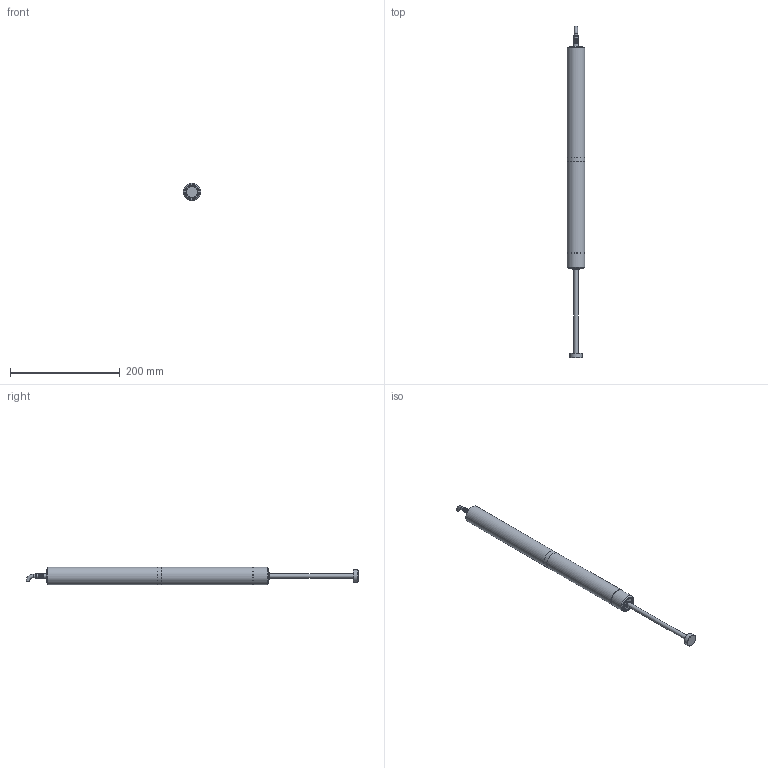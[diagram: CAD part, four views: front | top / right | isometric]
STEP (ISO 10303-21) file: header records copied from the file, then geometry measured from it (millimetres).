
FILE_DESCRIPTION( ( 'STEP AP203' ), '1' );
FILE_NAME( 'N:/Engineering/CAD_Solid/Magnescale/DK-Serie/DK 155 PR5/Kunden 3D/DK155PR5.stp', '2010-08-11T09:31:27', ( ' ' ), ( ' ' ), 'XStep 1.0', ' ', ' ' );
FILE_SCHEMA( ( 'CONFIG_CONTROL_DESIGN) ( )' ) );
Length unit declared in the file: metre
Products named in the file (5): 1; 2; 3; 4; 5
Bounding box: 32 x 606.4 x 32 mm (x, y, z)
Surface area: 49165.1 mm2 (no closed solid volume)
Topology: 0 solids, 59 shells, 59 faces, 161 edges, 129 vertices
Faces by surface type: plane 27, cone 18, cylinder 13, torus 1
Full cylindrical faces by diameter (mm): 1.5 x2, 5.8 x1, 6.867 x1, 7.267 x1, 8 x1, 22 x1, 26 x1, 31.4 x1, 31.7 x1, 32 x3
Entity records: 1896 total; most frequent: DIRECTION 364, CARTESIAN_POINT 300, AXIS2_PLACEMENT_3D 182, FACE_BOUND 118, EDGE_LOOP 118, ORIENTED_EDGE 118, EDGE_CURVE 118, VERTEX_POINT 118
